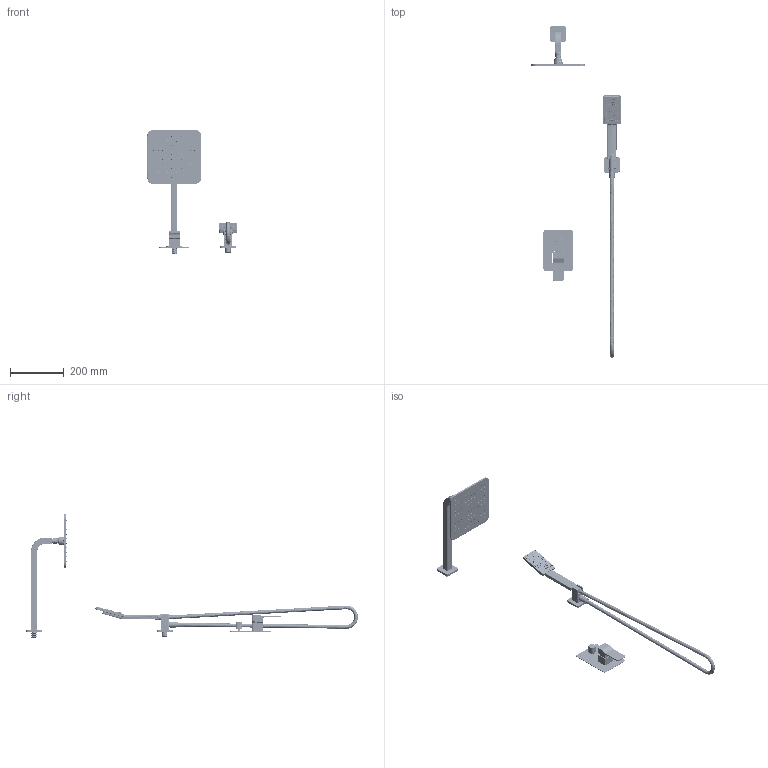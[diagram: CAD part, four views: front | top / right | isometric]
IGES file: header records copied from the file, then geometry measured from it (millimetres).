
Global section: file name: ea59f646-a2f4-411e-b8cf-b550ab3e3588; native system: unknown; preprocessor: unknown; author: unknown; organization: unknown; date: 20200427.094000; units: millimetre
Bounding box: 332.49 x 1237.41 x 461.25 mm (x, y, z)
Volume: 714322.6 mm3; surface area: 614368.7 mm2
Topology: 78 solids, 78 shells, 8728 faces, 46138 edges, 39726 vertices
Faces by surface type: bspline 7258, revolution 1470
